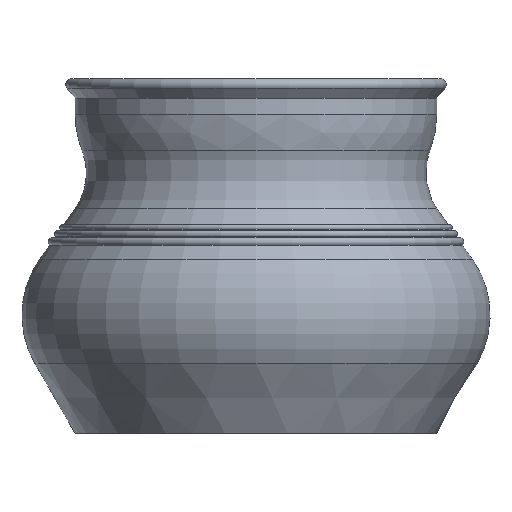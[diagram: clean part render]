
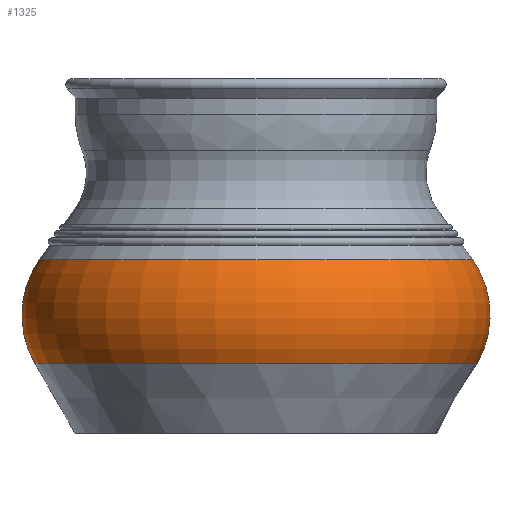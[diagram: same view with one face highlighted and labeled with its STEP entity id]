
A CAD part, front view. The second image highlights one B-rep face of the part: STEP entity #1325.
In plain terms, the highlighted toroidal (fillet/blend) face has major radius 116.152 mm and minor radius 81.848 mm.
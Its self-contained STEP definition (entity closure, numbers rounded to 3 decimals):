
#22=TOROIDAL_SURFACE('',#1503,116.152,81.848);
#166=FACE_OUTER_BOUND('',#284,.T.);
#284=EDGE_LOOP('',(#1208,#1209,#1210,#1211));
#526=CIRCLE('',#1467,187.072);
#549=CIRCLE('',#1504,183.16);
#550=CIRCLE('',#1505,81.848);
#653=VERTEX_POINT('',#2234);
#669=VERTEX_POINT('',#2349);
#818=EDGE_CURVE('',#653,#653,#526,.T.);
#849=EDGE_CURVE('',#669,#669,#549,.T.);
#850=EDGE_CURVE('',#669,#653,#550,.T.);
#1208=ORIENTED_EDGE('',*,*,#849,.F.);
#1209=ORIENTED_EDGE('',*,*,#850,.T.);
#1210=ORIENTED_EDGE('',*,*,#818,.T.);
#1211=ORIENTED_EDGE('',*,*,#850,.F.);
#1325=ADVANCED_FACE('',(#166),#22,.T.);
#1467=AXIS2_PLACEMENT_3D('',#2235,#1835,#1836);
#1503=AXIS2_PLACEMENT_3D('',#2348,#1915,#1916);
#1504=AXIS2_PLACEMENT_3D('',#2350,#1917,#1918);
#1505=AXIS2_PLACEMENT_3D('',#2351,#1919,#1920);
#1835=DIRECTION('center_axis',(0.,0.,1.));
#1836=DIRECTION('ref_axis',(1.,0.,0.));
#1915=DIRECTION('center_axis',(0.,0.,1.));
#1916=DIRECTION('ref_axis',(1.,0.,0.));
#1917=DIRECTION('center_axis',(0.,0.,1.));
#1918=DIRECTION('ref_axis',(1.,0.,0.));
#1919=DIRECTION('center_axis',(0.,-1.,0.));
#1920=DIRECTION('ref_axis',(-1.,0.,0.));
#2234=CARTESIAN_POINT('',(-187.072,0.,59.142));
#2235=CARTESIAN_POINT('Origin',(0.,0.,59.142));
#2348=CARTESIAN_POINT('Origin',(0.,0.,100.));
#2349=CARTESIAN_POINT('',(-183.16,0.,147.));
#2350=CARTESIAN_POINT('Origin',(0.,0.,147.));
#2351=CARTESIAN_POINT('Origin',(-116.152,0.,
100.));
